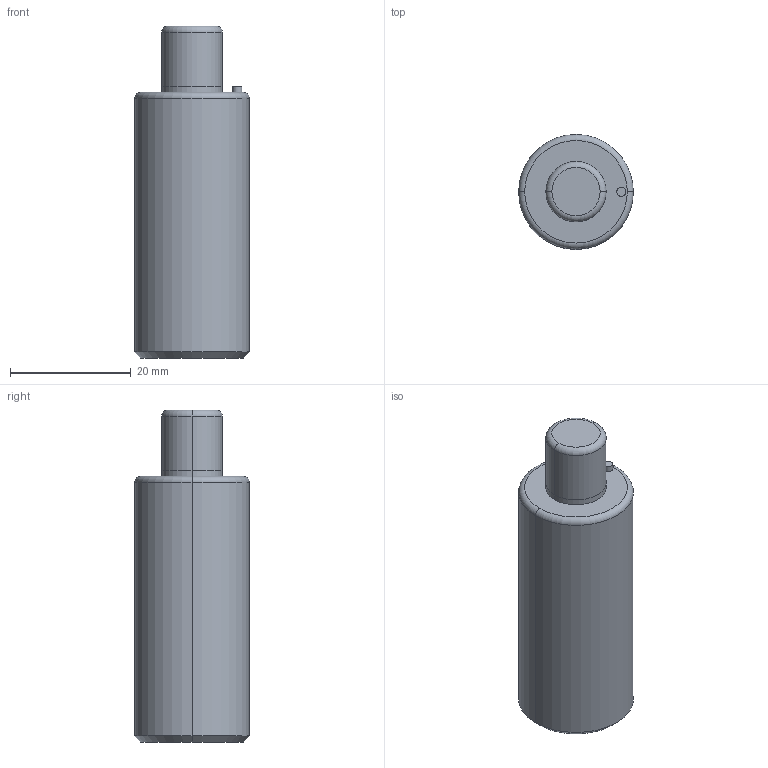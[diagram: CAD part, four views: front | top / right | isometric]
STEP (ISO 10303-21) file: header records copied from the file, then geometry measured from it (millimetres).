
FILE_DESCRIPTION(/* description */ (''),/* implementation_level */ '2;1');
FILE_NAME(/* name */ '3d_mgsc19-10_04574_r00.stp',/* time_stamp */ '2011-01-10T14:13:35+09:00',/* author */ ('MISUMI'),/* organization */ (''),/* preprocessor_version */ 'ST-DEVELOPER v11',/* originating_system */ 'UGS - NX 5.0',/* authorisation */ '');
FILE_SCHEMA (('CONFIG_CONTROL_DESIGN'));
Length unit declared in the file: millimetre
Products named in the file (1): 3d_mgsc19-10_04574_r00
Bounding box: 19 x 19 x 55 mm (x, y, z)
Volume: 13087.4 mm3; surface area: 3627.6 mm2
Topology: 1 solids, 1 shells, 24 faces, 48 edges, 27 vertices
Faces by surface type: cylinder 12, plane 4, torus 4, cone 4
Entity records: 698 total; most frequent: DIRECTION 126, CARTESIAN_POINT 98, ORIENTED_EDGE 92, AXIS2_PLACEMENT_3D 55, EDGE_CURVE 46, CIRCLE 30, EDGE_LOOP 27, VERTEX_POINT 27
